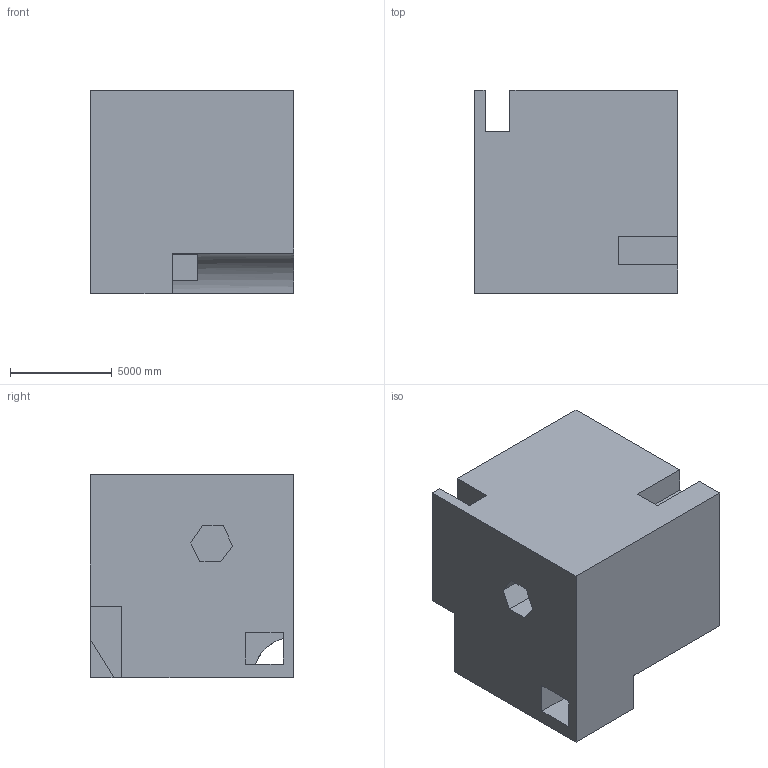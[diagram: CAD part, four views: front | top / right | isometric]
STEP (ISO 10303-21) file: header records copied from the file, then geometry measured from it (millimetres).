
FILE_DESCRIPTION (( 'STEP AP203' ), '1' );
FILE_NAME ('713.STEP', '2022-07-29T12:41:57', ( 'user' ), ( '' ), 'SwSTEP 2.0', 'SolidWorks 2021', '' );
FILE_SCHEMA (( 'CONFIG_CONTROL_DESIGN' ));
Length unit declared in the file: centimetre
Products named in the file (1): 713
Bounding box: 10000 x 10000 x 10000 mm (x, y, z)
Volume: 895954856116.6 mm3; surface area: 709251146 mm2
Topology: 1 solids, 1 shells, 36 faces, 102 edges, 68 vertices
Faces by surface type: plane 34, cylinder 2
Entity records: 1233 total; most frequent: CARTESIAN_POINT 207, ORIENTED_EDGE 204, DIRECTION 182, EDGE_CURVE 102, LINE 96, VECTOR 96, VERTEX_POINT 68, AXIS2_PLACEMENT_3D 43
